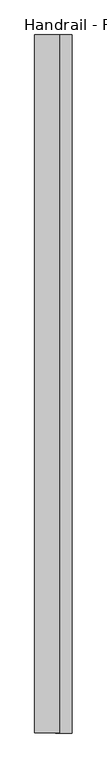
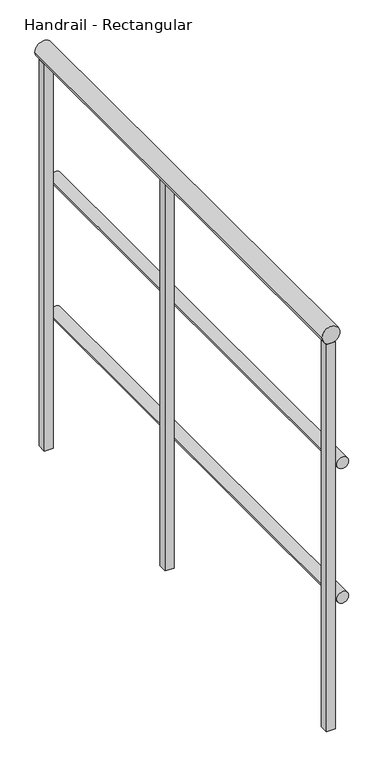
"""IFC4 building model written with IfcOpenShell, lengths in millimetres: railing geometry, Handrail - Rectangular."""

from ifc_helpers import new_model, si_unit, point, frame, frame_2d, origin, place, context, project, spatial, polyline, circle_curve, trimmed, segment, composite_curve, outline, extrude, source, transform, mapped, element, save


def handrail_rectangular_8720fce0(model_context):
    return source(origin(), model_context, "Body", "SweptSolid", [
        extrude(outline(composite_curve([segment(trimmed(circle_curve(frame_2d((3644.9, 2322.5410437)), 12.7), [point((3644.9, 2335.2410437))], [point((3644.9, 2309.8410437))], False, "CARTESIAN"), True, "CONTINUOUS"), segment(trimmed(circle_curve(frame_2d((3644.9, 2322.5410437)), 12.7), [point((3644.9, 2309.8410437))], [point((3644.9, 2335.2410437))], False, "CARTESIAN"), True, "CONTINUOUS")], self_intersect=False)), frame((0.0, -31539.9683133, 0.0), z_axis=(0.0, 1.0, 0.0), x_axis=(0.0, 0.0, 1.0)), (0.0, 0.0, 1.0), 1066.8),
        extrude(outline(composite_curve([segment(trimmed(circle_curve(frame_2d((3340.1, 2322.5410437)), 12.7), [point((3340.1, 2335.2410437))], [point((3340.1, 2309.8410437))], False, "CARTESIAN"), True, "CONTINUOUS"), segment(trimmed(circle_curve(frame_2d((3340.1, 2322.5410437)), 12.7), [point((3340.1, 2309.8410437))], [point((3340.1, 2335.2410437))], False, "CARTESIAN"), True, "CONTINUOUS")], self_intersect=False)), frame((0.0, -31539.9683133, 0.0), z_axis=(0.0, 1.0, 0.0), x_axis=(0.0, 0.0, 1.0)), (0.0, 0.0, 1.0), 1066.8),
        extrude(outline(composite_curve([segment(trimmed(circle_curve(frame_2d((3943.35, 2297.1410437)), 19.05), [point((3943.35, 2316.1910437))], [point((3943.35, 2278.0910437))], False, "CARTESIAN"), True, "CONTINUOUS"), segment(trimmed(circle_curve(frame_2d((3943.35, 2297.1410437)), 19.05), [point((3943.35, 2278.0910437))], [point((3943.35, 2316.1910437))], False, "CARTESIAN"), True, "CONTINUOUS")], self_intersect=False)), frame((0.0, -31539.9683133, 0.0), z_axis=(0.0, 1.0, 0.0), x_axis=(0.0, 0.0, 1.0)), (0.0, 0.0, 1.0), 1066.8),
        extrude(outline(polyline([(2287.6160437, -30939.8933133), (2287.6160437, -30920.8433133), (2306.6660437, -30920.8433133), (2306.6660437, -30939.8933133), (2287.6160437, -30939.8933133)])), frame((0.0, 0.0, 3048.0), z_axis=(0.0, 0.0, 1.0), x_axis=(1.0, 0.0, 0.0)), (0.0, 0.0, 1.0), 876.3),
        extrude(outline(polyline([(2287.6160437, -30492.2183133), (2287.6160437, -30473.1683133), (2306.6660437, -30473.1683133), (2306.6660437, -30492.2183133), (2287.6160437, -30492.2183133)])), frame((0.0, 0.0, 3048.0), z_axis=(0.0, 0.0, 1.0), x_axis=(1.0, 0.0, 0.0)), (0.0, 0.0, 1.0), 876.3),
        extrude(outline(polyline([(2287.6160437, -31539.9683133), (2287.6160437, -31520.9183133), (2306.6660437, -31520.9183133), (2306.6660437, -31539.9683133), (2287.6160437, -31539.9683133)])), frame((0.0, 0.0, 3048.0), z_axis=(0.0, 0.0, 1.0), x_axis=(1.0, 0.0, 0.0)), (0.0, 0.0, 1.0), 876.3),
    ])


if __name__ == "__main__":
    model = new_model("IFC4")
    model_context = context("Model", 3, world=origin())
    ifc_project = project(units=[si_unit("LENGTHUNIT", "METRE", prefix="MILLI")], contexts=[model_context])
    site = spatial("IfcSite", under=ifc_project)
    building = spatial("IfcBuilding", under=site)
    placement = place(None, origin())
    handrail_rectangular_shape = handrail_rectangular_8720fce0(model_context)
    element("IfcRailing", 1, ObjectType="Handrail - Rectangular", at=placement, inside=building, context=model_context, shape_type="MappedRepresentation", body=[
        mapped(handrail_rectangular_shape, transform((0.0, 0.0, 0.0), x_axis=(1.0, 0.0, 0.0), y_axis=(0.0, 1.0, 0.0), z_axis=(0.0, 0.0, 1.0))),
    ])
    save(model, "model.ifc")
